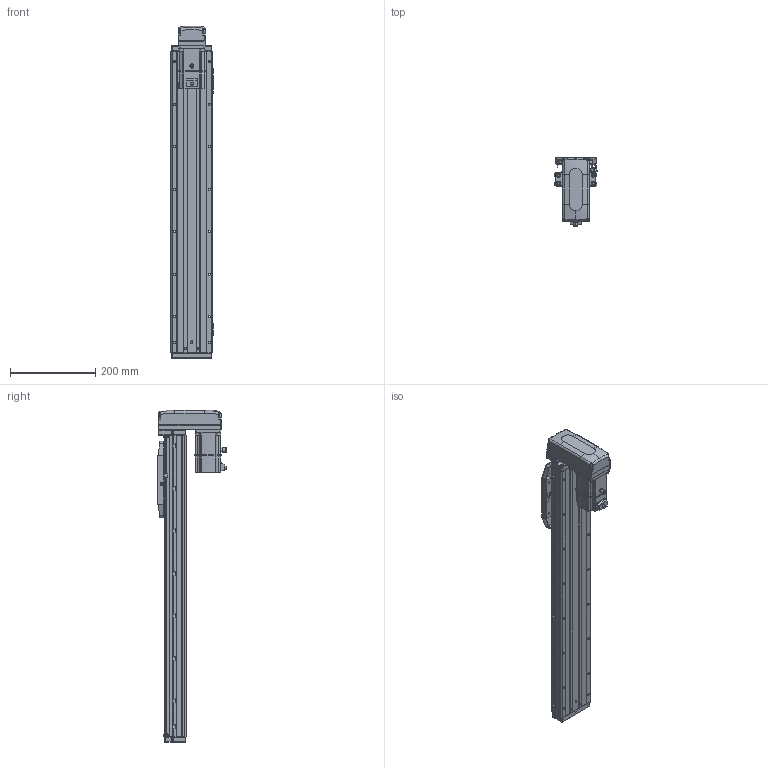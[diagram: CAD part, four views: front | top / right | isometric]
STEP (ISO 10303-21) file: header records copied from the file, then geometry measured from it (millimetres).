
FILE_DESCRIPTION (( 'STEP AP203' ), '1' );
FILE_NAME ('CTHA100-500-BM-M20-C4L.step', '2022-07-06T09:04:24', ( '微软用户' ), ( '微软中国' ), 'SwSTEP 2.0', 'SolidWorks 2020', '' );
FILE_SCHEMA (( 'CONFIG_CONTROL_DESIGN' ));
Length unit declared in the file: millimetre
Products named in the file (19): CTHA60-017; CTHA100-002; CTHA60-021; CTHA100-031; KTHA100-001_710; GBT77-2000 M3×3; CTHA86-030; KTHA100-004; GBT 70.1-M3℅6; GBT 70.3-M3℅6; KTHA100-005; GBT70.1 M5℅16; CTHA86-015-1_CTHA86-015-2; GB¨uT 70.2-M3¡Á5_M3¡Á6; CTHA60-016; CTHA86-033; EE_SX911P_R; _X2_4E0983F1_X0_200W_1; CTHA100-500-BM-M20-C4L
Assembly tree (64 placements, depth 2):
  CTHA100-500-BM-M20-C4L
    KTHA100-001_710
    KTHA100-004
    KTHA100-005
    GB¨uT 70.2-M3¡Á5_M3¡Á6  x10
    EE_SX911P_R  x3
    CTHA60-017  x3
    CTHA60-021  x2
    GBT77-2000 M3×3  x6
    GBT 70.1-M3℅6  x10
    GBT70.1 M5℅16  x14
    CTHA60-016  x2
    _X2_4E0983F1_X0_200W_1
    CTHA100-002
    CTHA100-031
    CTHA86-030  x2
    GBT 70.3-M3℅6  x4
    CTHA86-015-1_CTHA86-015-2
    CTHA86-033
Bounding box: 98.82 x 163.2 x 781 mm (x, y, z)
Volume: 3414236.8 mm3; surface area: 585235.1 mm2
Topology: 66 solids, 66 shells, 2669 faces, 6415 edges, 3976 vertices
Faces by surface type: plane 1392, cylinder 701, cone 353, torus 124, bspline 75, sphere 24
Entity records: 45992 total; most frequent: CARTESIAN_POINT 9035, DIRECTION 7094, ORIENTED_EDGE 6946, EDGE_CURVE 3473, AXIS2_PLACEMENT_3D 2407, LINE 2280, VECTOR 2280, VERTEX_POINT 2196
